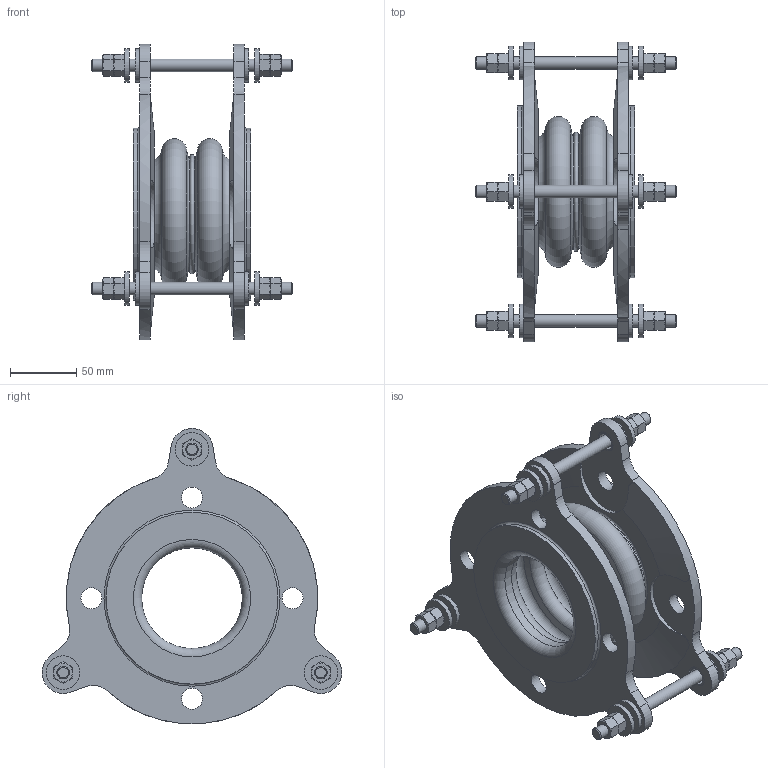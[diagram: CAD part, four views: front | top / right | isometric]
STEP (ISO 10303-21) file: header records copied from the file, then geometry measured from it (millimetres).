
FILE_DESCRIPTION(/* description */ (''),/* implementation_level */ '2;1');
FILE_NAME(/* name */ 'C:\Users\rramoutar\Desktop\802\802 3IDx3.5FF.stp',/* time_stamp */ '2016-04-24T12:04:29-04:00',/* author */ ('rramoutar'),/* organization */ ('Mason Industries Inc.'),/* preprocessor_version */ 'ST-DEVELOPER v15.6',/* originating_system */ 'Autodesk Inventor 2015',/* authorisation */ '');
FILE_SCHEMA (('CONFIG_CONTROL_DESIGN'));
Length unit declared in the file: inch
Products named in the file (1): 802 3IDx3.5FF
Bounding box: 152.4 x 226.97 x 223.58 mm (x, y, z)
Volume: 702406.3 mm3; surface area: 234656.6 mm2
Topology: 5 solids, 5 shells, 460 faces, 985 edges, 581 vertices
Faces by surface type: cone 166, plane 164, cylinder 109, torus 21
Full cylindrical faces by diameter (mm): 9.525 x9, 11.112 x6, 13.097 x6, 15.478 x6, 15.875 x14, 25.4 x12, 76.2 x2, 82.55 x2, 84.137 x2, 130.175 x2
Entity records: 12224 total; most frequent: CARTESIAN_POINT 2864, DIRECTION 1838, ORIENTED_EDGE 1768, EDGE_CURVE 884, AXIS2_PLACEMENT_3D 829, EDGE_LOOP 633, VERTEX_POINT 575, FACE_OUTER_BOUND 460
